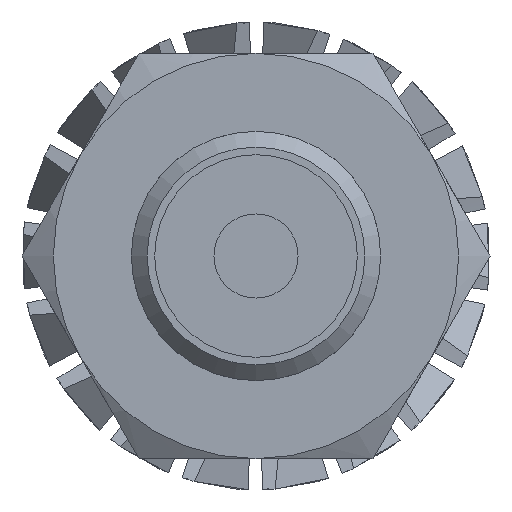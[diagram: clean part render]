
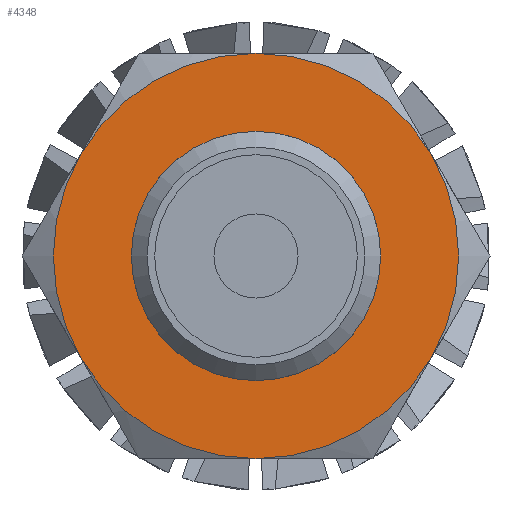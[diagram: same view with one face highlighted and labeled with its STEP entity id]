
A CAD part, front view. The second image highlights one B-rep face of the part: STEP entity #4348.
In plain terms, the highlighted planar face has unit normal (0, -1, 0).
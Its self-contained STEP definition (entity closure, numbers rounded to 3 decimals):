
#153 = VERTEX_POINT ( 'NONE', #4218 ) ;
#163 = DIRECTION ( 'NONE',  ( 1., 0., 0. ) ) ;
#248 = AXIS2_PLACEMENT_3D ( 'NONE', #7268, #5124, #7971 ) ;
#355 = CARTESIAN_POINT ( 'NONE',  ( 191.78, 144.208, 0. ) ) ;
#372 = EDGE_CURVE ( 'NONE', #1184, #6005, #6449, .T. ) ;
#565 = DIRECTION ( 'NONE',  ( 0., -1., 0. ) ) ;
#722 = AXIS2_PLACEMENT_3D ( 'NONE', #8297, #2547, #5332 ) ;
#790 = CIRCLE ( 'NONE', #925, 6.5 ) ;
#925 = AXIS2_PLACEMENT_3D ( 'NONE', #2414, #8185, #5903 ) ;
#966 = CARTESIAN_POINT ( 'NONE',  ( 193.409, 144.208, 3.25 ) ) ;
#1081 = CIRCLE ( 'NONE', #7732, 6.5 ) ;
#1184 = VERTEX_POINT ( 'NONE', #7752 ) ;
#1499 = ORIENTED_EDGE ( 'NONE', *, *, #9286, .T. ) ;
#1773 = CARTESIAN_POINT ( 'NONE',  ( 187.78, 144.208, -6.5 ) ) ;
#1840 = VERTEX_POINT ( 'NONE', #966 ) ;
#1898 = EDGE_CURVE ( 'NONE', #3440, #3440, #6262, .T. ) ;
#1942 = EDGE_LOOP ( 'NONE', ( #2753, #1499, #7671, #5574, #7627, #3986 ) ) ;
#2000 = FACE_BOUND ( 'NONE', #4662, .T. ) ;
#2106 = DIRECTION ( 'NONE',  ( 0., -1., 0. ) ) ;
#2414 = CARTESIAN_POINT ( 'NONE',  ( 187.78, 144.208, 0. ) ) ;
#2547 = DIRECTION ( 'NONE',  ( 0., -1., 0. ) ) ;
#2656 = EDGE_CURVE ( 'NONE', #6005, #8920, #1081, .T. ) ;
#2753 = ORIENTED_EDGE ( 'NONE', *, *, #7021, .T. ) ;
#3200 = CARTESIAN_POINT ( 'NONE',  ( 187.78, 144.208, 0. ) ) ;
#3375 = CIRCLE ( 'NONE', #7601, 6.5 ) ;
#3440 = VERTEX_POINT ( 'NONE', #355 ) ;
#3809 = DIRECTION ( 'NONE',  ( 1., 0., 0. ) ) ;
#3855 = DIRECTION ( 'NONE',  ( 0., -1., 0. ) ) ;
#3903 = FACE_OUTER_BOUND ( 'NONE', #1942, .T. ) ;
#3986 = ORIENTED_EDGE ( 'NONE', *, *, #2656, .T. ) ;
#4218 = CARTESIAN_POINT ( 'NONE',  ( 193.409, 144.208, -3.25 ) ) ;
#4348 = ADVANCED_FACE ( 'NONE', ( #3903, #2000 ), #7473, .T. ) ;
#4405 = AXIS2_PLACEMENT_3D ( 'NONE', #8701, #5981, #163 ) ;
#4662 = EDGE_LOOP ( 'NONE', ( #7566 ) ) ;
#4809 = CIRCLE ( 'NONE', #722, 6.5 ) ;
#4853 = AXIS2_PLACEMENT_3D ( 'NONE', #3200, #3855, #8973 ) ;
#4943 = CIRCLE ( 'NONE', #6646, 6.5 ) ;
#5124 = DIRECTION ( 'NONE',  ( 0., -1., 0. ) ) ;
#5179 = DIRECTION ( 'NONE',  ( 0., -1., 0. ) ) ;
#5332 = DIRECTION ( 'NONE',  ( 1., 0., 0. ) ) ;
#5574 = ORIENTED_EDGE ( 'NONE', *, *, #7873, .T. ) ;
#5654 = DIRECTION ( 'NONE',  ( 1., 0., 0. ) ) ;
#5829 = EDGE_CURVE ( 'NONE', #153, #1840, #3375, .T. ) ;
#5903 = DIRECTION ( 'NONE',  ( 1., 0., 0. ) ) ;
#5981 = DIRECTION ( 'NONE',  ( 0., -1., 0. ) ) ;
#6005 = VERTEX_POINT ( 'NONE', #7868 ) ;
#6262 = CIRCLE ( 'NONE', #4405, 4. ) ;
#6449 = CIRCLE ( 'NONE', #248, 6.5 ) ;
#6646 = AXIS2_PLACEMENT_3D ( 'NONE', #8541, #2106, #9277 ) ;
#7020 = CARTESIAN_POINT ( 'NONE',  ( 187.78, 144.208, 0. ) ) ;
#7021 = EDGE_CURVE ( 'NONE', #8920, #8720, #4943, .T. ) ;
#7268 = CARTESIAN_POINT ( 'NONE',  ( 187.78, 144.208, 0. ) ) ;
#7473 = PLANE ( 'NONE',  #4853 ) ;
#7566 = ORIENTED_EDGE ( 'NONE', *, *, #1898, .F. ) ;
#7601 = AXIS2_PLACEMENT_3D ( 'NONE', #7020, #565, #5654 ) ;
#7627 = ORIENTED_EDGE ( 'NONE', *, *, #372, .T. ) ;
#7671 = ORIENTED_EDGE ( 'NONE', *, *, #5829, .T. ) ;
#7732 = AXIS2_PLACEMENT_3D ( 'NONE', #8080, #5179, #3809 ) ;
#7752 = CARTESIAN_POINT ( 'NONE',  ( 187.78, 144.208, 6.5 ) ) ;
#7868 = CARTESIAN_POINT ( 'NONE',  ( 182.15, 144.208, 3.25 ) ) ;
#7873 = EDGE_CURVE ( 'NONE', #1840, #1184, #790, .T. ) ;
#7971 = DIRECTION ( 'NONE',  ( 1., 0., 0. ) ) ;
#8080 = CARTESIAN_POINT ( 'NONE',  ( 187.78, 144.208, 0. ) ) ;
#8185 = DIRECTION ( 'NONE',  ( 0., -1., 0. ) ) ;
#8297 = CARTESIAN_POINT ( 'NONE',  ( 187.78, 144.208, 0. ) ) ;
#8392 = CARTESIAN_POINT ( 'NONE',  ( 182.15, 144.208, -3.25 ) ) ;
#8541 = CARTESIAN_POINT ( 'NONE',  ( 187.78, 144.208, 0. ) ) ;
#8701 = CARTESIAN_POINT ( 'NONE',  ( 187.78, 144.208, 0. ) ) ;
#8720 = VERTEX_POINT ( 'NONE', #1773 ) ;
#8920 = VERTEX_POINT ( 'NONE', #8392 ) ;
#8973 = DIRECTION ( 'NONE',  ( 0., 0., -1. ) ) ;
#9277 = DIRECTION ( 'NONE',  ( 1., 0., 0. ) ) ;
#9286 = EDGE_CURVE ( 'NONE', #8720, #153, #4809, .T. ) ;
